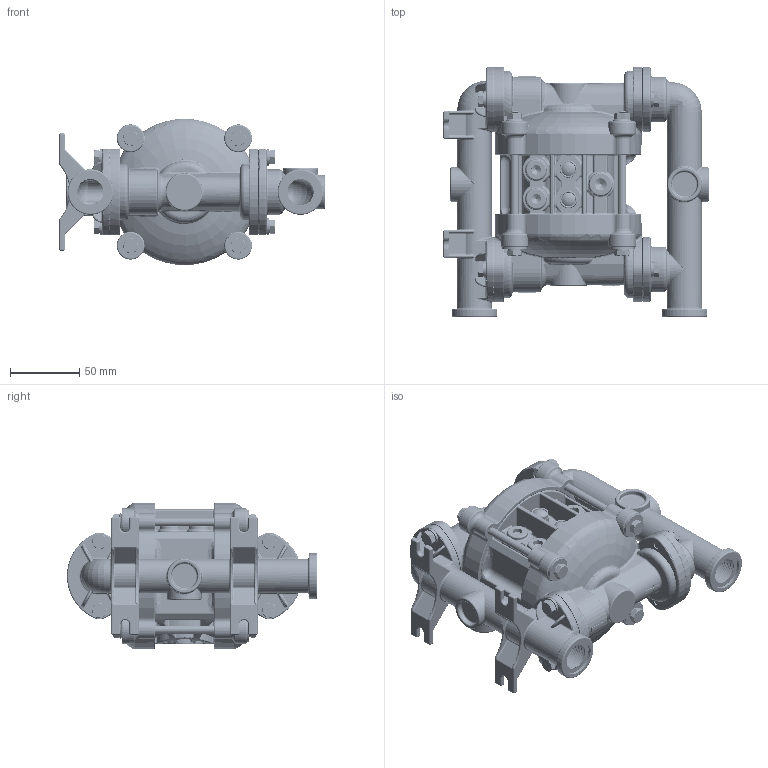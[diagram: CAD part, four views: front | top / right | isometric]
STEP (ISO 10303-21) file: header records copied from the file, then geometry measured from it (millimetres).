
FILE_DESCRIPTION (( 'STEP AP203' ), '1' );
FILE_NAME ('P35 AISI.STEP', '2023-08-09T14:58:05', ( '' ), ( '' ), 'SwSTEP 2.0', 'SolidWorks 2023', '' );
FILE_SCHEMA (( 'CONFIG_CONTROL_DESIGN' ));
Length unit declared in the file: millimetre
Products named in the file (1): P35 AISI
Bounding box: 192 x 181 x 105.61 mm (x, y, z)
Volume: 586559.6 mm3; surface area: 290662.8 mm2
Topology: 36 solids, 44 shells, 5935 faces, 13343 edges, 7325 vertices
Faces by surface type: cylinder 1639, torus 1353, bspline 1053, cone 902, plane 706, sphere 282
Entity records: 210887 total; most frequent: CARTESIAN_POINT 87153, DIRECTION 26507, ORIENTED_EDGE 26112, EDGE_CURVE 13056, AXIS2_PLACEMENT_3D 11593, VERTEX_POINT 7287, CIRCLE 6710, EDGE_LOOP 6119
